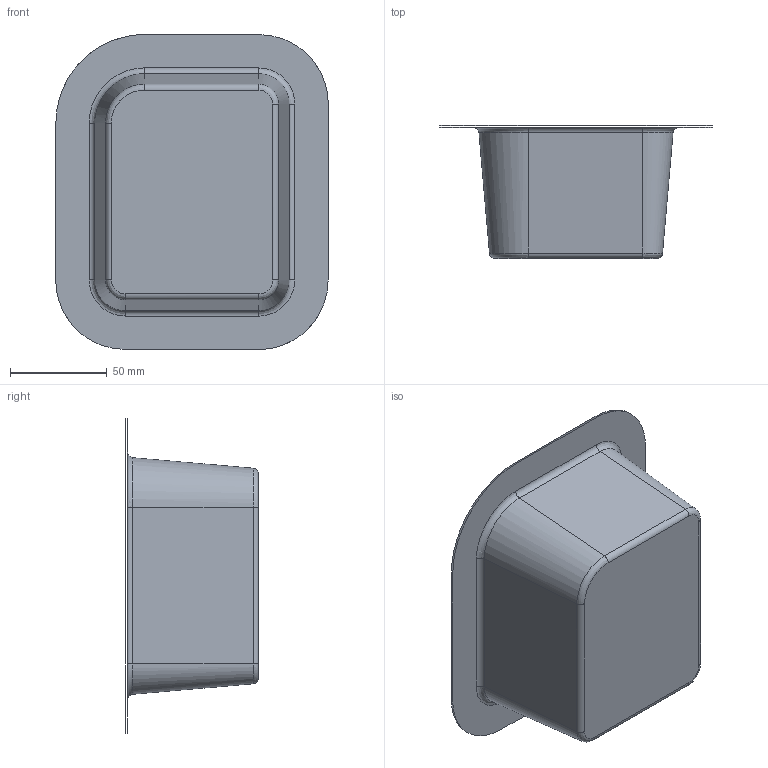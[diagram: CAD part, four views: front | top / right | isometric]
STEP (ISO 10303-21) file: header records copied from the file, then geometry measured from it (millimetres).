
FILE_DESCRIPTION(('CATIA V5 STEP Exchange'),'2;1');
FILE_NAME('C:\_Andres\UNIVERSIDAD\IQS\ASIGNATURAS\DAO\Controles\1617\c3\2inicio\Espinel_Roig_control3_v11.stp','2017-02-17T14:22:05+00:00',('none'),('none'),'CATIA Version 5-6 Release 2014 SP1 HF18','CATIA V5 STEP AP203','none');
FILE_SCHEMA(('CONFIG_CONTROL_DESIGN'));
Length unit declared in the file: millimetre
Products named in the file (1): Espinel_Roig_control3_v11
Bounding box: 140.85 x 68.74 x 162.85 mm (x, y, z)
Surface area: 67130.6 mm2 (no closed solid volume)
Topology: 0 solids, 2 shells, 27 faces, 80 edges, 57 vertices
Faces by surface type: bspline 16, cylinder 8, plane 3
Entity records: 1910 total; most frequent: CARTESIAN_POINT 1314, ORIENTED_EDGE 128, EDGE_CURVE 72, B_SPLINE_CURVE_WITH_KNOTS 54, DIRECTION 50, VERTEX_POINT 48, EDGE_LOOP 28, ADVANCED_FACE 27
